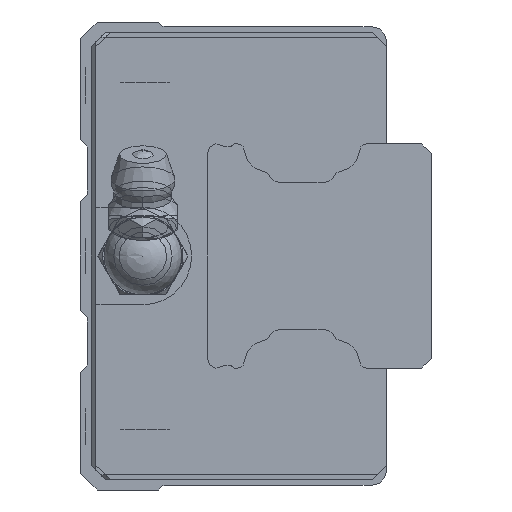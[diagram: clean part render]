
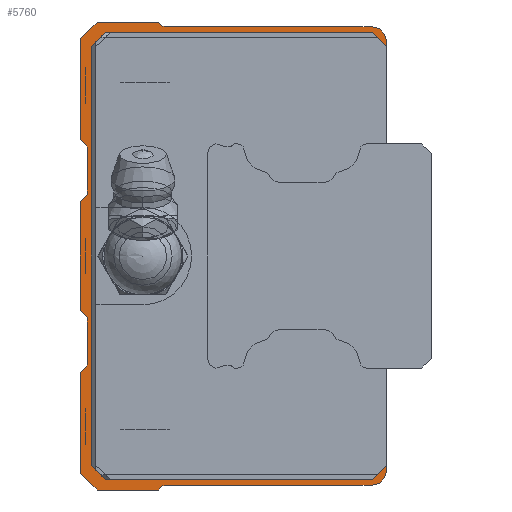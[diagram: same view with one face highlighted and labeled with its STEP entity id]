
A CAD part, left-side view. The second image highlights one B-rep face of the part: STEP entity #5760.
In plain terms, the highlighted planar face has unit normal (-1, 0, 0).
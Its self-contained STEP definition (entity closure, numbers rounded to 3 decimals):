
#107=LINE('',#9056,#457);
#116=LINE('',#9075,#466);
#123=LINE('',#9088,#473);
#149=LINE('',#9144,#499);
#157=LINE('',#9160,#507);
#163=LINE('',#9172,#513);
#188=LINE('',#9223,#538);
#193=LINE('',#9232,#543);
#195=LINE('',#9236,#545);
#216=LINE('',#9326,#566);
#220=LINE('',#9335,#570);
#223=LINE('',#9341,#573);
#227=LINE('',#9353,#577);
#231=LINE('',#9368,#581);
#235=LINE('',#9380,#585);
#238=LINE('',#9386,#588);
#241=LINE('',#9392,#591);
#244=LINE('',#9402,#594);
#247=LINE('',#9408,#597);
#251=LINE('',#9420,#601);
#255=LINE('',#9432,#605);
#258=LINE('',#9442,#608);
#261=LINE('',#9448,#611);
#265=LINE('',#9460,#615);
#269=LINE('',#9472,#619);
#272=LINE('',#9482,#622);
#457=VECTOR('',#7070,1000.);
#466=VECTOR('',#7085,1000.);
#473=VECTOR('',#7096,1000.);
#499=VECTOR('',#7136,1000.);
#507=VECTOR('',#7148,1000.);
#513=VECTOR('',#7160,1000.);
#538=VECTOR('',#7201,1000.);
#543=VECTOR('',#7208,1000.);
#545=VECTOR('',#7212,1000.);
#566=VECTOR('',#7287,1000.);
#570=VECTOR('',#7293,1000.);
#573=VECTOR('',#7298,1000.);
#577=VECTOR('',#7310,1000.);
#581=VECTOR('',#7328,1000.);
#585=VECTOR('',#7340,1000.);
#588=VECTOR('',#7345,1000.);
#591=VECTOR('',#7350,1000.);
#594=VECTOR('',#7359,1000.);
#597=VECTOR('',#7364,1000.);
#601=VECTOR('',#7376,1000.);
#605=VECTOR('',#7388,1000.);
#608=VECTOR('',#7397,1000.);
#611=VECTOR('',#7402,1000.);
#615=VECTOR('',#7414,1000.);
#619=VECTOR('',#7426,1000.);
#622=VECTOR('',#7435,1000.);
#813=PLANE('',#6270);
#1169=CIRCLE('',#6226,0.5);
#1171=CIRCLE('',#6230,1.5);
#1173=CIRCLE('',#6233,1.5);
#1175=CIRCLE('',#6237,0.5);
#1179=CIRCLE('',#6247,0.5);
#1181=CIRCLE('',#6251,0.5);
#1185=CIRCLE('',#6259,0.5);
#1187=CIRCLE('',#6263,0.5);
#1991=ORIENTED_EDGE('',*,*,#3099,.T.);
#1992=ORIENTED_EDGE('',*,*,#3106,.T.);
#1993=ORIENTED_EDGE('',*,*,#3179,.F.);
#1994=ORIENTED_EDGE('',*,*,#3243,.F.);
#1995=ORIENTED_EDGE('',*,*,#3240,.F.);
#1996=ORIENTED_EDGE('',*,*,#3237,.T.);
#1997=ORIENTED_EDGE('',*,*,#3234,.F.);
#1998=ORIENTED_EDGE('',*,*,#3231,.F.);
#1999=ORIENTED_EDGE('',*,*,#3227,.F.);
#2000=ORIENTED_EDGE('',*,*,#3305,.F.);
#2001=ORIENTED_EDGE('',*,*,#3300,.F.);
#2002=ORIENTED_EDGE('',*,*,#3297,.T.);
#2003=ORIENTED_EDGE('',*,*,#3294,.F.);
#2004=ORIENTED_EDGE('',*,*,#3291,.T.);
#2005=ORIENTED_EDGE('',*,*,#3288,.F.);
#2006=ORIENTED_EDGE('',*,*,#3285,.F.);
#2007=ORIENTED_EDGE('',*,*,#3280,.F.);
#2008=ORIENTED_EDGE('',*,*,#3277,.T.);
#2009=ORIENTED_EDGE('',*,*,#3274,.F.);
#2010=ORIENTED_EDGE('',*,*,#3271,.T.);
#2011=ORIENTED_EDGE('',*,*,#3268,.F.);
#2012=ORIENTED_EDGE('',*,*,#3265,.F.);
#2013=ORIENTED_EDGE('',*,*,#3260,.F.);
#2014=ORIENTED_EDGE('',*,*,#3257,.F.);
#2015=ORIENTED_EDGE('',*,*,#3254,.F.);
#2016=ORIENTED_EDGE('',*,*,#3251,.T.);
#2017=ORIENTED_EDGE('',*,*,#3248,.F.);
#2018=ORIENTED_EDGE('',*,*,#3245,.F.);
#2019=ORIENTED_EDGE('',*,*,#3181,.F.);
#2020=ORIENTED_EDGE('',*,*,#3141,.T.);
#2021=ORIENTED_EDGE('',*,*,#3148,.T.);
#2022=ORIENTED_EDGE('',*,*,#3133,.T.);
#2023=ORIENTED_EDGE('',*,*,#3174,.T.);
#2024=ORIENTED_EDGE('',*,*,#3089,.T.);
#3089=EDGE_CURVE('',#3809,#3808,#107,.T.);
#3099=EDGE_CURVE('',#3808,#3815,#116,.T.);
#3106=EDGE_CURVE('',#3815,#3819,#123,.T.);
#3133=EDGE_CURVE('',#3843,#3842,#149,.T.);
#3141=EDGE_CURVE('',#3849,#3848,#157,.T.);
#3148=EDGE_CURVE('',#3848,#3843,#163,.T.);
#3174=EDGE_CURVE('',#3842,#3809,#188,.T.);
#3179=EDGE_CURVE('',#3872,#3819,#193,.T.);
#3181=EDGE_CURVE('',#3849,#3874,#195,.T.);
#3227=EDGE_CURVE('',#3916,#3917,#216,.T.);
#3231=EDGE_CURVE('',#3917,#3920,#220,.T.);
#3234=EDGE_CURVE('',#3920,#3922,#223,.T.);
#3237=EDGE_CURVE('',#3924,#3922,#1169,.T.);
#3240=EDGE_CURVE('',#3924,#3926,#227,.T.);
#3243=EDGE_CURVE('',#3926,#3872,#1171,.T.);
#3245=EDGE_CURVE('',#3874,#3928,#1173,.T.);
#3248=EDGE_CURVE('',#3928,#3930,#231,.T.);
#3251=EDGE_CURVE('',#3932,#3930,#1175,.T.);
#3254=EDGE_CURVE('',#3932,#3934,#235,.T.);
#3257=EDGE_CURVE('',#3934,#3936,#238,.T.);
#3260=EDGE_CURVE('',#3936,#3938,#241,.T.);
#3265=EDGE_CURVE('',#3938,#3942,#244,.T.);
#3268=EDGE_CURVE('',#3942,#3944,#247,.T.);
#3271=EDGE_CURVE('',#3946,#3944,#1179,.T.);
#3274=EDGE_CURVE('',#3946,#3948,#251,.T.);
#3277=EDGE_CURVE('',#3950,#3948,#1181,.T.);
#3280=EDGE_CURVE('',#3950,#3952,#255,.T.);
#3285=EDGE_CURVE('',#3952,#3956,#258,.T.);
#3288=EDGE_CURVE('',#3956,#3958,#261,.T.);
#3291=EDGE_CURVE('',#3960,#3958,#1185,.T.);
#3294=EDGE_CURVE('',#3960,#3962,#265,.T.);
#3297=EDGE_CURVE('',#3964,#3962,#1187,.T.);
#3300=EDGE_CURVE('',#3964,#3966,#269,.T.);
#3305=EDGE_CURVE('',#3966,#3916,#272,.T.);
#3808=VERTEX_POINT('',#9055);
#3809=VERTEX_POINT('',#9057);
#3815=VERTEX_POINT('',#9074);
#3819=VERTEX_POINT('',#9087);
#3842=VERTEX_POINT('',#9143);
#3843=VERTEX_POINT('',#9145);
#3848=VERTEX_POINT('',#9159);
#3849=VERTEX_POINT('',#9161);
#3872=VERTEX_POINT('',#9231);
#3874=VERTEX_POINT('',#9237);
#3916=VERTEX_POINT('',#9327);
#3917=VERTEX_POINT('',#9328);
#3920=VERTEX_POINT('',#9336);
#3922=VERTEX_POINT('',#9342);
#3924=VERTEX_POINT('',#9348);
#3926=VERTEX_POINT('',#9354);
#3928=VERTEX_POINT('',#9363);
#3930=VERTEX_POINT('',#9369);
#3932=VERTEX_POINT('',#9375);
#3934=VERTEX_POINT('',#9381);
#3936=VERTEX_POINT('',#9387);
#3938=VERTEX_POINT('',#9393);
#3942=VERTEX_POINT('',#9403);
#3944=VERTEX_POINT('',#9409);
#3946=VERTEX_POINT('',#9415);
#3948=VERTEX_POINT('',#9421);
#3950=VERTEX_POINT('',#9427);
#3952=VERTEX_POINT('',#9433);
#3956=VERTEX_POINT('',#9443);
#3958=VERTEX_POINT('',#9449);
#3960=VERTEX_POINT('',#9455);
#3962=VERTEX_POINT('',#9461);
#3964=VERTEX_POINT('',#9467);
#3966=VERTEX_POINT('',#9473);
#4418=EDGE_LOOP('',(#1991,#1992,#1993,#1994,#1995,#1996,#1997,#1998,#1999,
#2000,#2001,#2002,#2003,#2004,#2005,#2006,#2007,#2008,#2009,#2010,#2011,
#2012,#2013,#2014,#2015,#2016,#2017,#2018,#2019,#2020,#2021,#2022,#2023,
#2024));
#5083=FACE_BOUND('',#4418,.T.);
#5760=ADVANCED_FACE('',(#5083),#813,.F.);
#6226=AXIS2_PLACEMENT_3D('',#9347,#7303,#7304);
#6230=AXIS2_PLACEMENT_3D('',#9359,#7315,#7316);
#6233=AXIS2_PLACEMENT_3D('',#9362,#7321,#7322);
#6237=AXIS2_PLACEMENT_3D('',#9374,#7333,#7334);
#6247=AXIS2_PLACEMENT_3D('',#9414,#7369,#7370);
#6251=AXIS2_PLACEMENT_3D('',#9426,#7381,#7382);
#6259=AXIS2_PLACEMENT_3D('',#9454,#7407,#7408);
#6263=AXIS2_PLACEMENT_3D('',#9466,#7419,#7420);
#6270=AXIS2_PLACEMENT_3D('',#9485,#7439,#7440);
#7070=DIRECTION('',(0.,-0.707,0.707));
#7085=DIRECTION('',(0.,-1.,0.));
#7096=DIRECTION('',(0.,-0.707,-0.707));
#7136=DIRECTION('',(0.,0.707,0.707));
#7148=DIRECTION('',(0.,0.707,-0.707));
#7160=DIRECTION('',(0.,1.,0.));
#7201=DIRECTION('',(0.,0.,1.));
#7208=DIRECTION('',(0.,0.,-1.));
#7212=DIRECTION('',(0.,0.,-1.));
#7287=DIRECTION('',(0.,-0.707,0.707));
#7293=DIRECTION('',(0.,-1.,0.));
#7298=DIRECTION('',(0.,-0.707,-0.707));
#7303=DIRECTION('',(1.,0.,0.));
#7304=DIRECTION('',(0.,0.,-1.));
#7310=DIRECTION('',(0.,-1.,0.));
#7315=DIRECTION('',(1.,0.,0.));
#7316=DIRECTION('',(0.,0.,-1.));
#7321=DIRECTION('',(1.,0.,0.));
#7322=DIRECTION('',(0.,0.,-1.));
#7328=DIRECTION('',(0.,1.,0.));
#7333=DIRECTION('',(1.,0.,0.));
#7334=DIRECTION('',(0.,0.,-1.));
#7340=DIRECTION('',(0.,0.707,-0.707));
#7345=DIRECTION('',(0.,1.,0.));
#7350=DIRECTION('',(0.,0.707,0.707));
#7359=DIRECTION('',(0.,0.,1.));
#7364=DIRECTION('',(0.,-0.707,0.707));
#7369=DIRECTION('',(1.,0.,0.));
#7370=DIRECTION('',(0.,0.,-1.));
#7376=DIRECTION('',(0.,0.,1.));
#7381=DIRECTION('',(1.,0.,0.));
#7382=DIRECTION('',(0.,0.,-1.));
#7388=DIRECTION('',(0.,0.707,0.707));
#7397=DIRECTION('',(0.,0.,1.));
#7402=DIRECTION('',(0.,-0.707,0.707));
#7407=DIRECTION('',(1.,0.,0.));
#7408=DIRECTION('',(0.,0.,-1.));
#7414=DIRECTION('',(0.,0.,1.));
#7419=DIRECTION('',(1.,0.,0.));
#7420=DIRECTION('',(0.,0.,-1.));
#7426=DIRECTION('',(0.,0.707,0.707));
#7435=DIRECTION('',(0.,0.,1.));
#7439=DIRECTION('',(1.,0.,0.));
#7440=DIRECTION('',(0.,0.,-1.));
#9055=CARTESIAN_POINT('',(-38.45,28.82,22.95));
#9056=CARTESIAN_POINT('',(-38.45,30.32,21.45));
#9057=CARTESIAN_POINT('',(-38.45,30.32,21.45));
#9074=CARTESIAN_POINT('',(-38.45,1.5,22.95));
#9075=CARTESIAN_POINT('',(-38.45,28.82,22.95));
#9087=CARTESIAN_POINT('',(-38.45,0.,21.45));
#9088=CARTESIAN_POINT('',(-38.45,1.5,22.95));
#9143=CARTESIAN_POINT('',(-38.45,30.32,-21.45));
#9144=CARTESIAN_POINT('',(-38.45,28.82,-22.95));
#9145=CARTESIAN_POINT('',(-38.45,28.82,-22.95));
#9159=CARTESIAN_POINT('',(-38.45,1.5,-22.95));
#9160=CARTESIAN_POINT('',(-38.45,0.,-21.45));
#9161=CARTESIAN_POINT('',(-38.45,0.,-21.45));
#9172=CARTESIAN_POINT('',(-38.45,1.5,-22.95));
#9223=CARTESIAN_POINT('',(-38.45,30.32,-21.45));
#9231=CARTESIAN_POINT('',(-38.45,0.,22.));
#9232=CARTESIAN_POINT('',(-38.45,0.,22.));
#9236=CARTESIAN_POINT('',(-38.45,0.,22.));
#9237=CARTESIAN_POINT('',(-38.45,0.,-22.));
#9326=CARTESIAN_POINT('',(-38.45,31.4,22.3));
#9327=CARTESIAN_POINT('',(-38.45,31.4,22.3));
#9328=CARTESIAN_POINT('',(-38.45,29.7,24.));
#9335=CARTESIAN_POINT('',(-38.45,29.7,24.));
#9336=CARTESIAN_POINT('',(-38.45,23.4,24.));
#9341=CARTESIAN_POINT('',(-38.45,23.4,24.));
#9342=CARTESIAN_POINT('',(-38.45,23.046,23.646));
#9347=CARTESIAN_POINT('',(-38.45,22.693,24.));
#9348=CARTESIAN_POINT('',(-38.45,22.693,23.5));
#9353=CARTESIAN_POINT('',(-38.45,22.693,23.5));
#9354=CARTESIAN_POINT('',(-38.45,1.5,23.5));
#9359=CARTESIAN_POINT('',(-38.45,1.5,22.));
#9362=CARTESIAN_POINT('',(-38.45,1.5,-22.));
#9363=CARTESIAN_POINT('',(-38.45,1.5,-23.5));
#9368=CARTESIAN_POINT('',(-38.45,1.5,-23.5));
#9369=CARTESIAN_POINT('',(-38.45,22.693,-23.5));
#9374=CARTESIAN_POINT('',(-38.45,22.693,-24.));
#9375=CARTESIAN_POINT('',(-38.45,23.046,-23.646));
#9380=CARTESIAN_POINT('',(-38.45,23.046,-23.646));
#9381=CARTESIAN_POINT('',(-38.45,23.4,-24.));
#9386=CARTESIAN_POINT('',(-38.45,23.4,-24.));
#9387=CARTESIAN_POINT('',(-38.45,29.7,-24.));
#9392=CARTESIAN_POINT('',(-38.45,29.7,-24.));
#9393=CARTESIAN_POINT('',(-38.45,31.4,-22.3));
#9402=CARTESIAN_POINT('',(-38.45,31.4,-22.3));
#9403=CARTESIAN_POINT('',(-38.45,31.4,-11.95));
#9408=CARTESIAN_POINT('',(-38.45,31.4,-11.95));
#9409=CARTESIAN_POINT('',(-38.45,30.846,-11.396));
#9414=CARTESIAN_POINT('',(-38.45,31.2,-11.043));
#9415=CARTESIAN_POINT('',(-38.45,30.7,-11.043));
#9420=CARTESIAN_POINT('',(-38.45,30.7,-11.043));
#9421=CARTESIAN_POINT('',(-38.45,30.7,-6.457));
#9426=CARTESIAN_POINT('',(-38.45,31.2,-6.457));
#9427=CARTESIAN_POINT('',(-38.45,30.846,-6.104));
#9432=CARTESIAN_POINT('',(-38.45,30.846,-6.104));
#9433=CARTESIAN_POINT('',(-38.45,31.4,-5.55));
#9442=CARTESIAN_POINT('',(-38.45,31.4,-5.55));
#9443=CARTESIAN_POINT('',(-38.45,31.4,5.55));
#9448=CARTESIAN_POINT('',(-38.45,31.4,5.55));
#9449=CARTESIAN_POINT('',(-38.45,30.846,6.104));
#9454=CARTESIAN_POINT('',(-38.45,31.2,6.457));
#9455=CARTESIAN_POINT('',(-38.45,30.7,6.457));
#9460=CARTESIAN_POINT('',(-38.45,30.7,6.457));
#9461=CARTESIAN_POINT('',(-38.45,30.7,11.043));
#9466=CARTESIAN_POINT('',(-38.45,31.2,11.043));
#9467=CARTESIAN_POINT('',(-38.45,30.846,11.396));
#9472=CARTESIAN_POINT('',(-38.45,30.846,11.396));
#9473=CARTESIAN_POINT('',(-38.45,31.4,11.95));
#9482=CARTESIAN_POINT('',(-38.45,31.4,11.95));
#9485=CARTESIAN_POINT('',(-38.45,22.693,24.));
